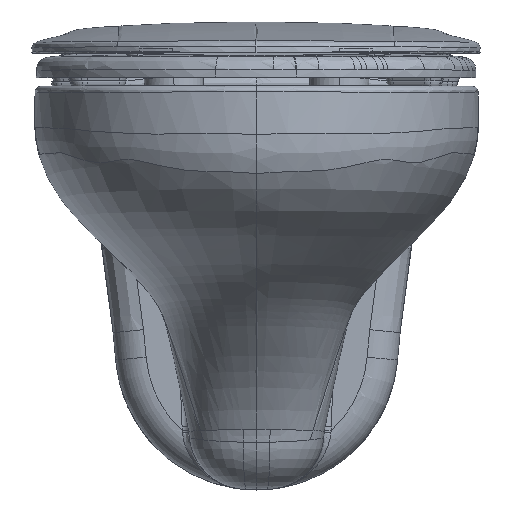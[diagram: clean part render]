
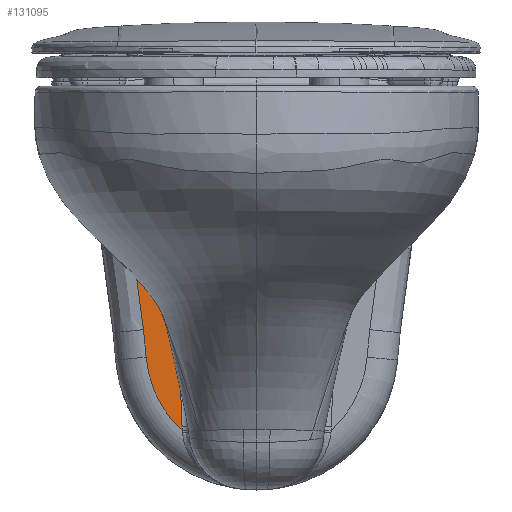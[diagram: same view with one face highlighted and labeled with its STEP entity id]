
A CAD part, top view. The second image highlights one B-rep face of the part: STEP entity #131095.
In plain terms, the highlighted planar face has unit normal (0, 0, 1).
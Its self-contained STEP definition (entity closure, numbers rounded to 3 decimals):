
#2475 = LINE ( 'NONE', #368061, #141740 ) ;
#11028 = VERTEX_POINT ( 'NONE', #41130 ) ;
#12131 = ORIENTED_EDGE ( 'NONE', *, *, #323933, .F. ) ;
#16245 = DIRECTION ( 'NONE',  ( -1., 0., 0. ) ) ;
#23043 = VERTEX_POINT ( 'NONE', #217620 ) ;
#26645 = CARTESIAN_POINT ( 'NONE',  ( -95.153, -173.931, -165. ) ) ;
#35984 = FACE_OUTER_BOUND ( 'NONE', #193522, .T. ) ;
#40124 = AXIS2_PLACEMENT_3D ( 'NONE', #46883, #165386, #16245 ) ;
#41130 = CARTESIAN_POINT ( 'NONE',  ( -90.56, -221.732, -165. ) ) ;
#43722 = VERTEX_POINT ( 'NONE', #303775 ) ;
#46883 = CARTESIAN_POINT ( 'NONE',  ( 0., -214.529, -165. ) ) ;
#55285 = CARTESIAN_POINT ( 'NONE',  ( -102.705, -123.907, -165. ) ) ;
#56816 = ORIENTED_EDGE ( 'NONE', *, *, #347844, .F. ) ;
#61032 = CARTESIAN_POINT ( 'NONE',  ( -99.301, -130.758, -165. ) ) ;
#61089 = DIRECTION ( 'NONE',  ( -1., 0., 0. ) ) ;
#88370 = DIRECTION ( 'NONE',  ( 0.887, 0.462, 0. ) ) ;
#90336 = CARTESIAN_POINT ( 'NONE',  ( -61.11, -278.446, -165. ) ) ;
#91708 = CARTESIAN_POINT ( 'NONE',  ( -124.186, -133.149, -165. ) ) ;
#92663 = CARTESIAN_POINT ( 'NONE',  ( -61.105, -281.754, -165. ) ) ;
#114385 = CARTESIAN_POINT ( 'NONE',  ( -63.346, -220.93, -165. ) ) ;
#115602 = VERTEX_POINT ( 'NONE', #164626 ) ;
#116383 = CARTESIAN_POINT ( 'NONE',  ( -62.222, -249.688, -165. ) ) ;
#127936 = EDGE_CURVE ( 'NONE', #115602, #381344, #215610, .T. ) ;
#131095 = ADVANCED_FACE ( 'NONE', ( #35984 ), #246871, .T. ) ;
#134411 = EDGE_CURVE ( 'NONE', #381585, #381344, #375356, .T. ) ;
#141740 = VECTOR ( 'NONE', #88370, 1000. ) ;
#150883 = CARTESIAN_POINT ( 'NONE',  ( -61.105, -278.713, -165. ) ) ;
#164626 = CARTESIAN_POINT ( 'NONE',  ( -67.915, -105.769, -165. ) ) ;
#165386 = DIRECTION ( 'NONE',  ( 0., 0., -1. ) ) ;
#166346 = ORIENTED_EDGE ( 'NONE', *, *, #134411, .T. ) ;
#183497 = CIRCLE ( 'NONE', #40124, 90.846 ) ;
#193522 = EDGE_LOOP ( 'NONE', ( #166346, #287844, #261202, #324325, #56816, #12131, #304428 ) ) ;
#208164 = LINE ( 'NONE', #61032, #340864 ) ;
#210283 = EDGE_CURVE ( 'NONE', #23043, #115602, #2475, .T. ) ;
#214158 = CARTESIAN_POINT ( 'NONE',  ( -61.11, -278.446, -165. ) ) ;
#215610 = B_SPLINE_CURVE_WITH_KNOTS ( 'NONE', 3,
 ( #294168, #265537, #394081, #114385, #116383, #324792 ),
 .UNSPECIFIED., .F., .F.,
 ( 4, 2, 4 ),
 ( 0.002, 0.088, 0.175 ),
 .UNSPECIFIED. ) ;
#216229 = DIRECTION ( 'NONE',  ( 0., 0., 1. ) ) ;
#217620 = CARTESIAN_POINT ( 'NONE',  ( -102.705, -123.907, -165. ) ) ;
#220789 = B_SPLINE_CURVE_WITH_KNOTS ( 'NONE', 3,
 ( #271699, #26645, #394239, #55285 ),
 .UNSPECIFIED., .F., .F.,
 ( 4, 4 ),
 ( 0., 0.076 ),
 .UNSPECIFIED. ) ;
#222068 = EDGE_CURVE ( 'NONE', #357890, #23043, #220789, .T. ) ;
#230423 = VECTOR ( 'NONE', #309101, 1000. ) ;
#237745 = CARTESIAN_POINT ( 'NONE',  ( -92.732, -199.124, -165. ) ) ;
#246871 = PLANE ( 'NONE',  #392848 ) ;
#251838 = LINE ( 'NONE', #92663, #230423 ) ;
#261202 = ORIENTED_EDGE ( 'NONE', *, *, #210283, .F. ) ;
#261613 = CARTESIAN_POINT ( 'NONE',  ( -61.105, -278.713, -165. ) ) ;
#265537 = CARTESIAN_POINT ( 'NONE',  ( -66.758, -134.57, -165. ) ) ;
#271699 = CARTESIAN_POINT ( 'NONE',  ( -92.732, -199.124, -165. ) ) ;
#287844 = ORIENTED_EDGE ( 'NONE', *, *, #127936, .F. ) ;
#294168 = CARTESIAN_POINT ( 'NONE',  ( -67.915, -105.769, -165. ) ) ;
#303775 = CARTESIAN_POINT ( 'NONE',  ( -61.105, -281.754, -165. ) ) ;
#304428 = ORIENTED_EDGE ( 'NONE', *, *, #359526, .F. ) ;
#309101 = DIRECTION ( 'NONE',  ( 0., -1., 0. ) ) ;
#323933 = EDGE_CURVE ( 'NONE', #43722, #11028, #183497, .T. ) ;
#324325 = ORIENTED_EDGE ( 'NONE', *, *, #222068, .F. ) ;
#324792 = CARTESIAN_POINT ( 'NONE',  ( -61.11, -278.446, -165. ) ) ;
#340864 = VECTOR ( 'NONE', #401973, 1000. ) ;
#347844 = EDGE_CURVE ( 'NONE', #11028, #357890, #208164, .T. ) ;
#357890 = VERTEX_POINT ( 'NONE', #237745 ) ;
#359526 = EDGE_CURVE ( 'NONE', #381585, #43722, #251838, .T. ) ;
#367311 = CARTESIAN_POINT ( 'NONE',  ( -61.107, -278.535, -165. ) ) ;
#368061 = CARTESIAN_POINT ( 'NONE',  ( -123.385, -134.688, -165. ) ) ;
#369320 = CARTESIAN_POINT ( 'NONE',  ( -61.105, -278.624, -165. ) ) ;
#375356 = B_SPLINE_CURVE_WITH_KNOTS ( 'NONE', 3,
 ( #150883, #369320, #367311, #214158 ),
 .UNSPECIFIED., .F., .F.,
 ( 4, 4 ),
 ( 0., 0. ),
 .UNSPECIFIED. ) ;
#381344 = VERTEX_POINT ( 'NONE', #90336 ) ;
#381585 = VERTEX_POINT ( 'NONE', #261613 ) ;
#392848 = AXIS2_PLACEMENT_3D ( 'NONE', #91708, #216229, #61089 ) ;
#394081 = CARTESIAN_POINT ( 'NONE',  ( -65.614, -163.372, -165. ) ) ;
#394239 = CARTESIAN_POINT ( 'NONE',  ( -98.473, -148.858, -165. ) ) ;
#401973 = DIRECTION ( 'NONE',  ( -0.096, 0.995, 0. ) ) ;
